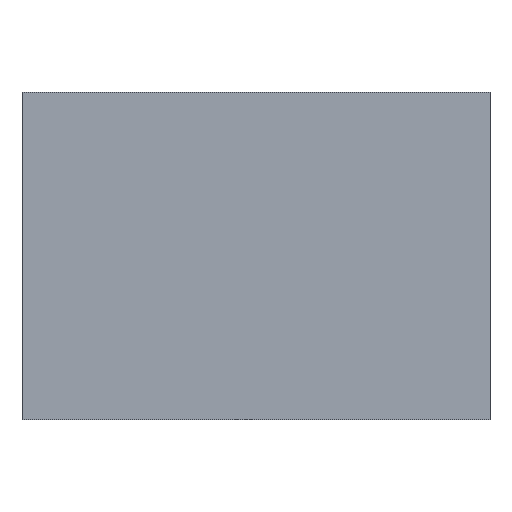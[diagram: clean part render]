
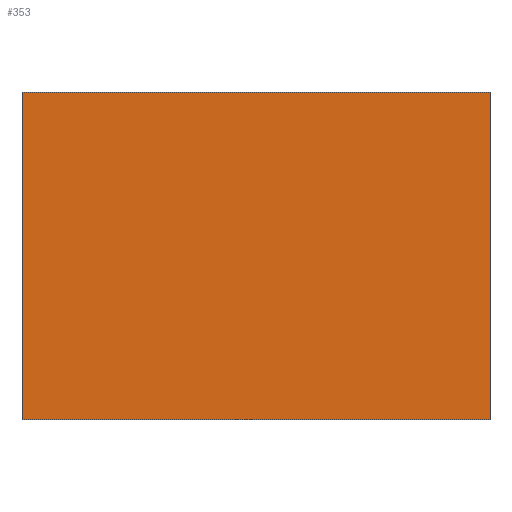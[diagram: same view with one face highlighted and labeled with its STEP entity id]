
A CAD part, top view. The second image highlights one B-rep face of the part: STEP entity #353.
In plain terms, the highlighted planar face has unit normal (0, 0, 1).
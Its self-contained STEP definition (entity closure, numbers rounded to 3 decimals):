
#39 = VERTEX_POINT('',#40);
#40 = CARTESIAN_POINT('',(-6.35,15.24,4.6));
#47 = PLANE('',#48);
#48 = AXIS2_PLACEMENT_3D('',#49,#50,#51);
#49 = CARTESIAN_POINT('',(-6.35,15.24,0.));
#50 = DIRECTION('',(0.,1.,0.));
#51 = DIRECTION('',(1.,0.,0.));
#59 = PLANE('',#60);
#60 = AXIS2_PLACEMENT_3D('',#61,#62,#63);
#61 = CARTESIAN_POINT('',(-6.35,-2.54,0.));
#62 = DIRECTION('',(-1.,0.,0.));
#63 = DIRECTION('',(0.,1.,0.));
#71 = EDGE_CURVE('',#39,#72,#74,.T.);
#72 = VERTEX_POINT('',#73);
#73 = CARTESIAN_POINT('',(19.05,15.24,4.6));
#74 = SURFACE_CURVE('',#75,(#79,#86),.PCURVE_S1.);
#75 = LINE('',#76,#77);
#76 = CARTESIAN_POINT('',(-6.35,15.24,4.6));
#77 = VECTOR('',#78,1.);
#78 = DIRECTION('',(1.,0.,0.));
#79 = PCURVE('',#47,#80);
#80 = DEFINITIONAL_REPRESENTATION('',(#81),#85);
#81 = LINE('',#82,#83);
#82 = CARTESIAN_POINT('',(0.,-4.6));
#83 = VECTOR('',#84,1.);
#84 = DIRECTION('',(1.,0.));
#85 = ( GEOMETRIC_REPRESENTATION_CONTEXT(2) 
PARAMETRIC_REPRESENTATION_CONTEXT() REPRESENTATION_CONTEXT('2D SPACE',''
  ) );
#86 = PCURVE('',#87,#92);
#87 = PLANE('',#88);
#88 = AXIS2_PLACEMENT_3D('',#89,#90,#91);
#89 = CARTESIAN_POINT('',(6.35,6.35,4.6));
#90 = DIRECTION('',(-0.,-0.,-1.));
#91 = DIRECTION('',(-1.,0.,0.));
#92 = DEFINITIONAL_REPRESENTATION('',(#93),#97);
#93 = LINE('',#94,#95);
#94 = CARTESIAN_POINT('',(12.7,8.89));
#95 = VECTOR('',#96,1.);
#96 = DIRECTION('',(-1.,0.));
#97 = ( GEOMETRIC_REPRESENTATION_CONTEXT(2) 
PARAMETRIC_REPRESENTATION_CONTEXT() REPRESENTATION_CONTEXT('2D SPACE',''
  ) );
#115 = PLANE('',#116);
#116 = AXIS2_PLACEMENT_3D('',#117,#118,#119);
#117 = CARTESIAN_POINT('',(19.05,15.24,0.));
#118 = DIRECTION('',(1.,0.,-0.));
#119 = DIRECTION('',(0.,-1.,0.));
#157 = EDGE_CURVE('',#72,#158,#160,.T.);
#158 = VERTEX_POINT('',#159);
#159 = CARTESIAN_POINT('',(19.05,-2.54,4.6));
#160 = SURFACE_CURVE('',#161,(#165,#172),.PCURVE_S1.);
#161 = LINE('',#162,#163);
#162 = CARTESIAN_POINT('',(19.05,15.24,4.6));
#163 = VECTOR('',#164,1.);
#164 = DIRECTION('',(0.,-1.,0.));
#165 = PCURVE('',#115,#166);
#166 = DEFINITIONAL_REPRESENTATION('',(#167),#171);
#167 = LINE('',#168,#169);
#168 = CARTESIAN_POINT('',(0.,-4.6));
#169 = VECTOR('',#170,1.);
#170 = DIRECTION('',(1.,0.));
#171 = ( GEOMETRIC_REPRESENTATION_CONTEXT(2) 
PARAMETRIC_REPRESENTATION_CONTEXT() REPRESENTATION_CONTEXT('2D SPACE',''
  ) );
#172 = PCURVE('',#87,#173);
#173 = DEFINITIONAL_REPRESENTATION('',(#174),#178);
#174 = LINE('',#175,#176);
#175 = CARTESIAN_POINT('',(-12.7,8.89));
#176 = VECTOR('',#177,1.);
#177 = DIRECTION('',(0.,-1.));
#178 = ( GEOMETRIC_REPRESENTATION_CONTEXT(2) 
PARAMETRIC_REPRESENTATION_CONTEXT() REPRESENTATION_CONTEXT('2D SPACE',''
  ) );
#196 = PLANE('',#197);
#197 = AXIS2_PLACEMENT_3D('',#198,#199,#200);
#198 = CARTESIAN_POINT('',(19.05,-2.54,0.));
#199 = DIRECTION('',(0.,-1.,0.));
#200 = DIRECTION('',(-1.,0.,0.));
#233 = EDGE_CURVE('',#158,#234,#236,.T.);
#234 = VERTEX_POINT('',#235);
#235 = CARTESIAN_POINT('',(-6.35,-2.54,4.6));
#236 = SURFACE_CURVE('',#237,(#241,#248),.PCURVE_S1.);
#237 = LINE('',#238,#239);
#238 = CARTESIAN_POINT('',(19.05,-2.54,4.6));
#239 = VECTOR('',#240,1.);
#240 = DIRECTION('',(-1.,0.,0.));
#241 = PCURVE('',#196,#242);
#242 = DEFINITIONAL_REPRESENTATION('',(#243),#247);
#243 = LINE('',#244,#245);
#244 = CARTESIAN_POINT('',(0.,-4.6));
#245 = VECTOR('',#246,1.);
#246 = DIRECTION('',(1.,0.));
#247 = ( GEOMETRIC_REPRESENTATION_CONTEXT(2) 
PARAMETRIC_REPRESENTATION_CONTEXT() REPRESENTATION_CONTEXT('2D SPACE',''
  ) );
#248 = PCURVE('',#87,#249);
#249 = DEFINITIONAL_REPRESENTATION('',(#250),#254);
#250 = LINE('',#251,#252);
#251 = CARTESIAN_POINT('',(-12.7,-8.89));
#252 = VECTOR('',#253,1.);
#253 = DIRECTION('',(1.,0.));
#254 = ( GEOMETRIC_REPRESENTATION_CONTEXT(2) 
PARAMETRIC_REPRESENTATION_CONTEXT() REPRESENTATION_CONTEXT('2D SPACE',''
  ) );
#304 = EDGE_CURVE('',#234,#39,#305,.T.);
#305 = SURFACE_CURVE('',#306,(#310,#317),.PCURVE_S1.);
#306 = LINE('',#307,#308);
#307 = CARTESIAN_POINT('',(-6.35,-2.54,4.6));
#308 = VECTOR('',#309,1.);
#309 = DIRECTION('',(0.,1.,0.));
#310 = PCURVE('',#59,#311);
#311 = DEFINITIONAL_REPRESENTATION('',(#312),#316);
#312 = LINE('',#313,#314);
#313 = CARTESIAN_POINT('',(0.,-4.6));
#314 = VECTOR('',#315,1.);
#315 = DIRECTION('',(1.,0.));
#316 = ( GEOMETRIC_REPRESENTATION_CONTEXT(2) 
PARAMETRIC_REPRESENTATION_CONTEXT() REPRESENTATION_CONTEXT('2D SPACE',''
  ) );
#317 = PCURVE('',#87,#318);
#318 = DEFINITIONAL_REPRESENTATION('',(#319),#323);
#319 = LINE('',#320,#321);
#320 = CARTESIAN_POINT('',(12.7,-8.89));
#321 = VECTOR('',#322,1.);
#322 = DIRECTION('',(0.,1.));
#323 = ( GEOMETRIC_REPRESENTATION_CONTEXT(2) 
PARAMETRIC_REPRESENTATION_CONTEXT() REPRESENTATION_CONTEXT('2D SPACE',''
  ) );
#353 = ADVANCED_FACE('',(#354),#87,.F.);
#354 = FACE_BOUND('',#355,.F.);
#355 = EDGE_LOOP('',(#356,#357,#358,#359));
#356 = ORIENTED_EDGE('',*,*,#71,.T.);
#357 = ORIENTED_EDGE('',*,*,#157,.T.);
#358 = ORIENTED_EDGE('',*,*,#233,.T.);
#359 = ORIENTED_EDGE('',*,*,#304,.T.);
